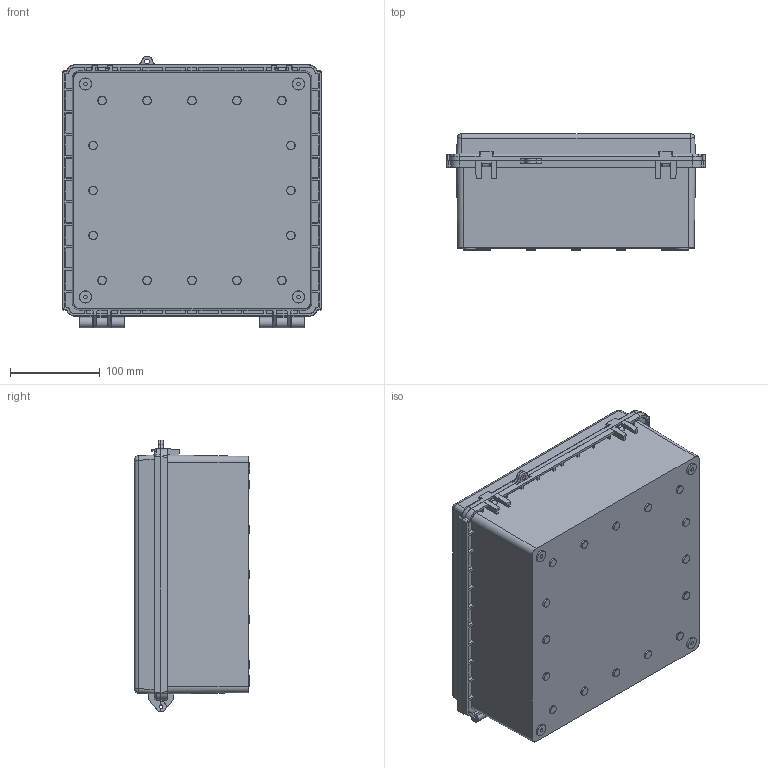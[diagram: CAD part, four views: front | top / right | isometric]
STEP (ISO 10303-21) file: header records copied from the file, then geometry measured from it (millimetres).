
FILE_DESCRIPTION (( 'STEP AP203' ), '1' );
FILE_NAME ('EC-2828.STEP', '2021-12-02T13:59:49', ( '' ), ( '' ), 'SwSTEP 2.0', 'SolidWorks 2021', '' );
FILE_SCHEMA (( 'CONFIG_CONTROL_DESIGN' ));
Length unit declared in the file: millimetre
Products named in the file (4): EC-2828-P-3; EC-2828; EC-2828-P-1; EC-2828-P-2
Assembly tree (3 placements, depth 2):
  EC-2828
    EC-2828-P-1
    EC-2828-P-2
    EC-2828-P-3
Bounding box: 289 x 129.01 x 302.4 mm (x, y, z)
Volume: 1081236.5 mm3; surface area: 727828.2 mm2
Topology: 3 solids, 3 shells, 824 faces, 2147 edges, 1374 vertices
Faces by surface type: plane 494, cylinder 165, cone 112, bspline 36, sphere 9, torus 8
Entity records: 26612 total; most frequent: CARTESIAN_POINT 6230, ORIENTED_EDGE 4272, DIRECTION 3986, EDGE_CURVE 2136, VECTOR 1466, LINE 1466, VERTEX_POINT 1372, AXIS2_PLACEMENT_3D 1260
